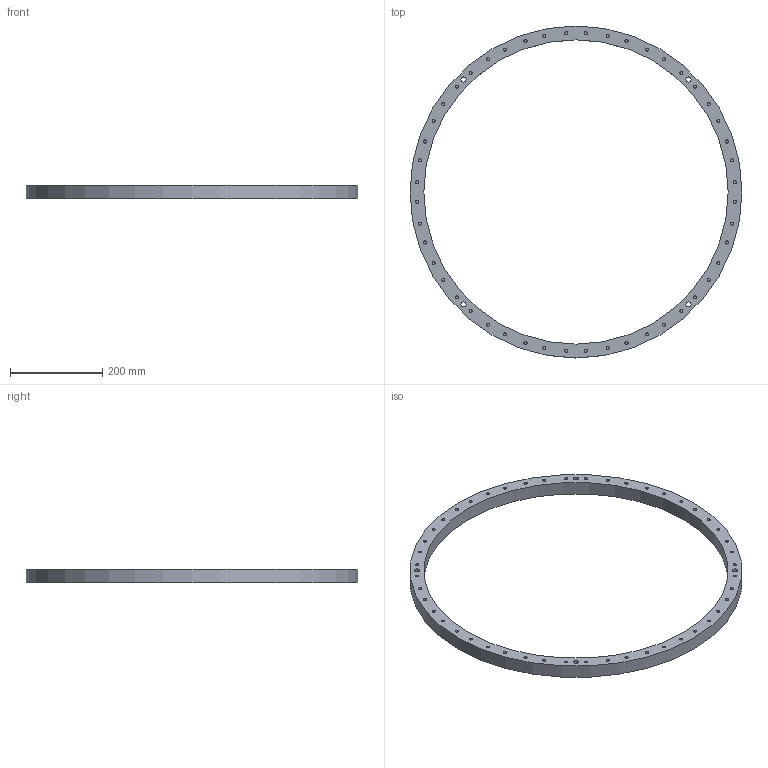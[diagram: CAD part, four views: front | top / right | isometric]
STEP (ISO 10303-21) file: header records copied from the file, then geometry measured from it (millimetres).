
FILE_DESCRIPTION(('Open CASCADE Model'),'2;1');
FILE_NAME('Open CASCADE Shape Model','2026-09-07T11:14:15',('Author'),( 'Open CASCADE'),'Open CASCADE STEP processor 7.9','Open CASCADE 7.9' ,'Unknown');
FILE_SCHEMA(('AUTOMOTIVE_DESIGN { 1 0 10303 214 1 1 1 1 }'));
Length unit declared in the file: millimetre
Products named in the file (1): Open CASCADE STEP translator 7.9 22
Bounding box: 720 x 720 x 30 mm (x, y, z)
Volume: 1911633.7 mm3; surface area: 279917.2 mm2
Topology: 1 solids, 1 shells, 104 faces, 162 edges, 108 vertices
Faces by surface type: cylinder 54, plane 50
Full cylindrical faces by diameter (mm): 6.8 x48, 11 x4, 660 x1, 720 x1
Entity records: 4698 total; most frequent: CARTESIAN_POINT 1035, DIRECTION 748, ORIENTED_EDGE 324, PCURVE 324, DEFINITIONAL_REPRESENTATION 324, LINE 270, VECTOR 270, AXIS2_PLACEMENT_3D 213
